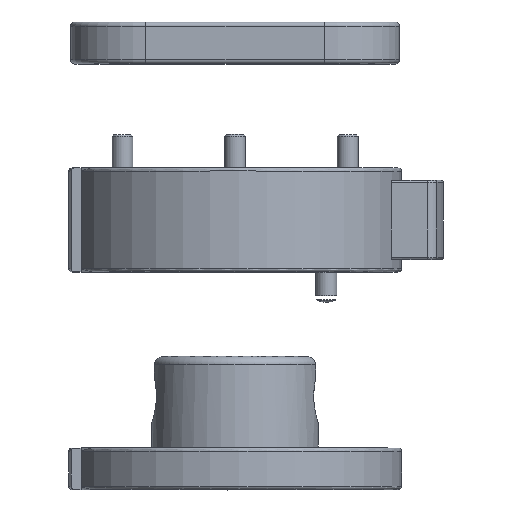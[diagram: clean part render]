
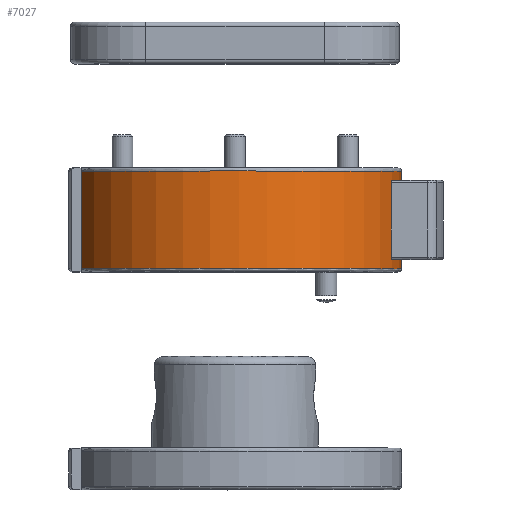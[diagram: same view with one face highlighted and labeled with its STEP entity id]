
A CAD part, top view. The second image highlights one B-rep face of the part: STEP entity #7027.
In plain terms, the highlighted cylindrical face has radius 80 mm (diameter 160 mm), a partial arc.
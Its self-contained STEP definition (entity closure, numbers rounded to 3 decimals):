
#160=FACE_BOUND('',#1295,.T.);
#669=CYLINDRICAL_SURFACE('',#7693,80.);
#879=FACE_OUTER_BOUND('',#1294,.T.);
#1294=EDGE_LOOP('',(#5243,#5244,#5245,#5246));
#1295=EDGE_LOOP('',(#5247,#5248));
#1767=B_SPLINE_CURVE_WITH_KNOTS('',3,(#11514,#11515,#11516,#11517,#11518,
#11519,#11520,#11521,#11522,#11523,#11524,#11525,#11526,#11527,#11528,#11529,
#11530,#11531),.UNSPECIFIED.,.F.,.F.,(4,2,2,2,2,2,2,2,4),(-1.537,
-1.409,-1.281,-1.153,-1.025,
-0.897,-0.769,-0.64,-0.512),
 .UNSPECIFIED.);
#1768=B_SPLINE_CURVE_WITH_KNOTS('',3,(#11532,#11533,#11534,#11535,#11536,
#11537,#11538,#11539,#11540,#11541,#11542,#11543,#11544,#11545,#11546,#11547,
#11548,#11549,#11550),.UNSPECIFIED.,.F.,.F.,(4,2,2,2,3,2,2,2,4),(-0.512,
-0.384,-0.256,-0.128,0.,0.128,
0.256,0.384,0.512),.UNSPECIFIED.);
#1933=CIRCLE('',#7689,80.);
#1934=CIRCLE('',#7692,80.);
#2514=LINE('',#11405,#2838);
#2518=LINE('',#11448,#2842);
#2838=VECTOR('',#8967,10.);
#2842=VECTOR('',#8987,10.);
#3239=VERTEX_POINT('',#11378);
#3240=VERTEX_POINT('',#11392);
#3246=VERTEX_POINT('',#11421);
#3247=VERTEX_POINT('',#11435);
#3252=VERTEX_POINT('',#11512);
#3253=VERTEX_POINT('',#11513);
#4004=EDGE_CURVE('',#3239,#3240,#2514,.T.);
#4015=EDGE_CURVE('',#3246,#3247,#2518,.T.);
#4026=EDGE_CURVE('',#3239,#3247,#1933,.T.);
#4027=EDGE_CURVE('',#3246,#3240,#1934,.T.);
#4028=EDGE_CURVE('',#3252,#3253,#1767,.T.);
#4029=EDGE_CURVE('',#3253,#3252,#1768,.T.);
#5243=ORIENTED_EDGE('',*,*,#4015,.T.);
#5244=ORIENTED_EDGE('',*,*,#4026,.F.);
#5245=ORIENTED_EDGE('',*,*,#4004,.T.);
#5246=ORIENTED_EDGE('',*,*,#4027,.F.);
#5247=ORIENTED_EDGE('',*,*,#4028,.T.);
#5248=ORIENTED_EDGE('',*,*,#4029,.T.);
#7027=ADVANCED_FACE('',(#879,#160),#669,.T.);
#7689=AXIS2_PLACEMENT_3D('',#11507,#9012,#9013);
#7692=AXIS2_PLACEMENT_3D('',#11510,#9018,#9019);
#7693=AXIS2_PLACEMENT_3D('',#11511,#9020,#9021);
#8967=DIRECTION('',(0.,-1.,0.));
#8987=DIRECTION('',(0.,1.,0.));
#9012=DIRECTION('center_axis',(0.,1.,0.));
#9013=DIRECTION('ref_axis',(1.,0.,0.));
#9018=DIRECTION('center_axis',(0.,-1.,0.));
#9019=DIRECTION('ref_axis',(1.,0.,0.));
#9020=DIRECTION('center_axis',(0.,1.,0.));
#9021=DIRECTION('ref_axis',(1.,0.,0.));
#11378=CARTESIAN_POINT('',(-61.39,21.169,30.397));
#11392=CARTESIAN_POINT('',(-61.39,-25.631,30.397));
#11405=CARTESIAN_POINT('',(-61.39,-2.231,30.397));
#11421=CARTESIAN_POINT('',(-61.39,-25.631,-30.397));
#11435=CARTESIAN_POINT('',(-61.39,21.169,-30.397));
#11448=CARTESIAN_POINT('',(-61.39,-2.231,-30.397));
#11507=CARTESIAN_POINT('Origin',(12.61,21.169,0.));
#11510=CARTESIAN_POINT('Origin',(12.61,-25.631,0.));
#11511=CARTESIAN_POINT('Origin',(12.61,-2.231,0.));
#11512=CARTESIAN_POINT('',(-26.662,1.169,-69.697));
#11513=CARTESIAN_POINT('',(-26.662,-5.631,-69.697));
#11514=CARTESIAN_POINT('Ctrl Pts',(-26.662,1.169,-69.697));
#11515=CARTESIAN_POINT('Ctrl Pts',(-27.034,1.169,-69.488));
#11516=CARTESIAN_POINT('Ctrl Pts',(-27.429,1.084,-69.261));
#11517=CARTESIAN_POINT('Ctrl Pts',(-28.152,0.737,
-68.838));
#11518=CARTESIAN_POINT('Ctrl Pts',(-28.48,0.475,
-68.641));
#11519=CARTESIAN_POINT('Ctrl Pts',(-28.997,-0.128,
-68.329));
#11520=CARTESIAN_POINT('Ctrl Pts',(-29.22,-0.511,
-68.192));
#11521=CARTESIAN_POINT('Ctrl Pts',(-29.516,-1.348,
-68.01));
#11522=CARTESIAN_POINT('Ctrl Pts',(-29.589,-1.804,
-67.965));
#11523=CARTESIAN_POINT('Ctrl Pts',(-29.589,-2.658,
-67.965));
#11524=CARTESIAN_POINT('Ctrl Pts',(-29.516,-3.113,
-68.01));
#11525=CARTESIAN_POINT('Ctrl Pts',(-29.22,-3.951,
-68.192));
#11526=CARTESIAN_POINT('Ctrl Pts',(-28.997,-4.333,
-68.329));
#11527=CARTESIAN_POINT('Ctrl Pts',(-28.48,-4.937,
-68.641));
#11528=CARTESIAN_POINT('Ctrl Pts',(-28.152,-5.198,
-68.838));
#11529=CARTESIAN_POINT('Ctrl Pts',(-27.429,-5.545,
-69.261));
#11530=CARTESIAN_POINT('Ctrl Pts',(-27.034,-5.631,
-69.488));
#11531=CARTESIAN_POINT('Ctrl Pts',(-26.662,-5.631,
-69.697));
#11532=CARTESIAN_POINT('Ctrl Pts',(-26.662,-5.631,
-69.697));
#11533=CARTESIAN_POINT('Ctrl Pts',(-26.29,-5.631,
-69.907));
#11534=CARTESIAN_POINT('Ctrl Pts',(-25.891,-5.545,
-70.127));
#11535=CARTESIAN_POINT('Ctrl Pts',(-25.155,-5.198,
-70.526));
#11536=CARTESIAN_POINT('Ctrl Pts',(-24.817,-4.937,
-70.706));
#11537=CARTESIAN_POINT('Ctrl Pts',(-24.282,-4.333,-70.986));
#11538=CARTESIAN_POINT('Ctrl Pts',(-24.05,-3.951,
-71.106));
#11539=CARTESIAN_POINT('Ctrl Pts',(-23.741,-3.113,
-71.265));
#11540=CARTESIAN_POINT('Ctrl Pts',(-23.664,-2.658,
-71.303));
#11541=CARTESIAN_POINT('Ctrl Pts',(-23.664,-2.231,
-71.303));
#11542=CARTESIAN_POINT('Ctrl Pts',(-23.664,-1.804,
-71.303));
#11543=CARTESIAN_POINT('Ctrl Pts',(-23.741,-1.348,
-71.265));
#11544=CARTESIAN_POINT('Ctrl Pts',(-24.05,-0.511,
-71.106));
#11545=CARTESIAN_POINT('Ctrl Pts',(-24.282,-0.128,
-70.986));
#11546=CARTESIAN_POINT('Ctrl Pts',(-24.817,0.475,
-70.706));
#11547=CARTESIAN_POINT('Ctrl Pts',(-25.155,0.737,
-70.526));
#11548=CARTESIAN_POINT('Ctrl Pts',(-25.891,1.084,-70.127));
#11549=CARTESIAN_POINT('Ctrl Pts',(-26.29,1.169,-69.907));
#11550=CARTESIAN_POINT('Ctrl Pts',(-26.662,1.169,-69.697));
